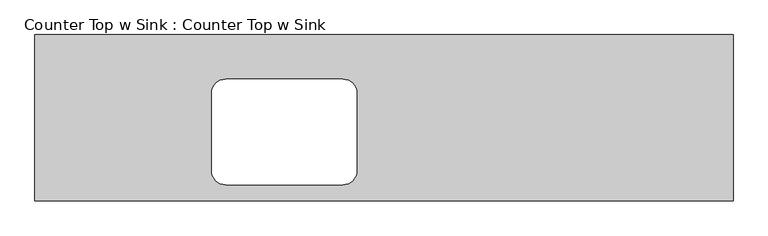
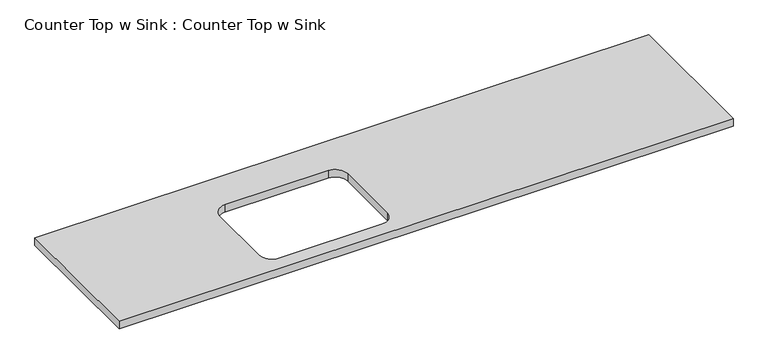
"""IFC4 building model written with IfcOpenShell, lengths in millimetres: furniture geometry, Counter Top w Sink : Counter Top w Sink."""

from ifc_helpers import new_model, si_unit, point, frame, frame_2d, origin, place, context, project, spatial, polyline, circle_curve, trimmed, segment, composite_curve, outline, extrude, source, transform, mapped, element, save


def counter_top_w_sink_counter_top_w_sink_1a22a961(model_context):
    return source(origin(), model_context, "Body", "SweptSolid", [
        extrude(outline(polyline([(1964.7003264, 0.0), (1964.7003264, -600.0), (-555.2996736, -600.0), (-555.2996736, 0.0), (1964.7003264, 0.0)]), holes=[composite_curve([segment(trimmed(circle_curve(frame_2d((133.6003264, -210.8)), 50.8), [point((133.6003264, -160.0))], [point((82.8003264, -210.8))], True, "CARTESIAN"), True, "CONTINUOUS"), segment(polyline([(82.8003264, -210.8), (82.8003264, -491.8)]), True, "CONTINUOUS"), segment(trimmed(circle_curve(frame_2d((133.6003264, -491.8)), 50.8), [point((82.8003264, -491.8))], [point((133.6003264, -542.6))], True, "CARTESIAN"), True, "CONTINUOUS"), segment(polyline([(133.6003264, -542.6), (555.8003264, -542.6)]), True, "CONTINUOUS"), segment(trimmed(circle_curve(frame_2d((555.8003264, -491.8)), 50.8), [point((555.8003264, -542.6))], [point((606.6003264, -491.8))], True, "CARTESIAN"), True, "CONTINUOUS"), segment(polyline([(606.6003264, -491.8), (606.6003264, -210.8)]), True, "CONTINUOUS"), segment(trimmed(circle_curve(frame_2d((555.8003264, -210.8)), 50.8), [point((606.6003264, -210.8))], [point((555.8003264, -160.0))], True, "CARTESIAN"), True, "CONTINUOUS"), segment(polyline([(555.8003264, -160.0), (133.6003264, -160.0)]), True, "CONTINUOUS")], self_intersect=False)]), frame((0.0, 0.0, 868.0), z_axis=(0.0, 0.0, 1.0), x_axis=(1.0, 0.0, 0.0)), (0.0, 0.0, 1.0), 32.0),
    ])


if __name__ == "__main__":
    model = new_model("IFC4")
    model_context = context("Model", 3, world=origin())
    ifc_project = project(units=[si_unit("LENGTHUNIT", "METRE", prefix="MILLI")], contexts=[model_context])
    site = spatial("IfcSite", under=ifc_project)
    building = spatial("IfcBuilding", under=site)
    placement = place(None, origin())
    counter_top_w_sink_counter_top_w_sink_shape = counter_top_w_sink_counter_top_w_sink_1a22a961(model_context)
    element("IfcFurniture", 1, ObjectType="Counter Top w Sink : Counter Top w Sink", at=placement, inside=building, context=model_context, shape_type="MappedRepresentation", body=[
        mapped(counter_top_w_sink_counter_top_w_sink_shape, transform((0.0, 0.0, 0.0), x_axis=(1.0, 0.0, 0.0), y_axis=(0.0, 1.0, 0.0), z_axis=(0.0, 0.0, 1.0))),
    ])
    save(model, "model.ifc")
